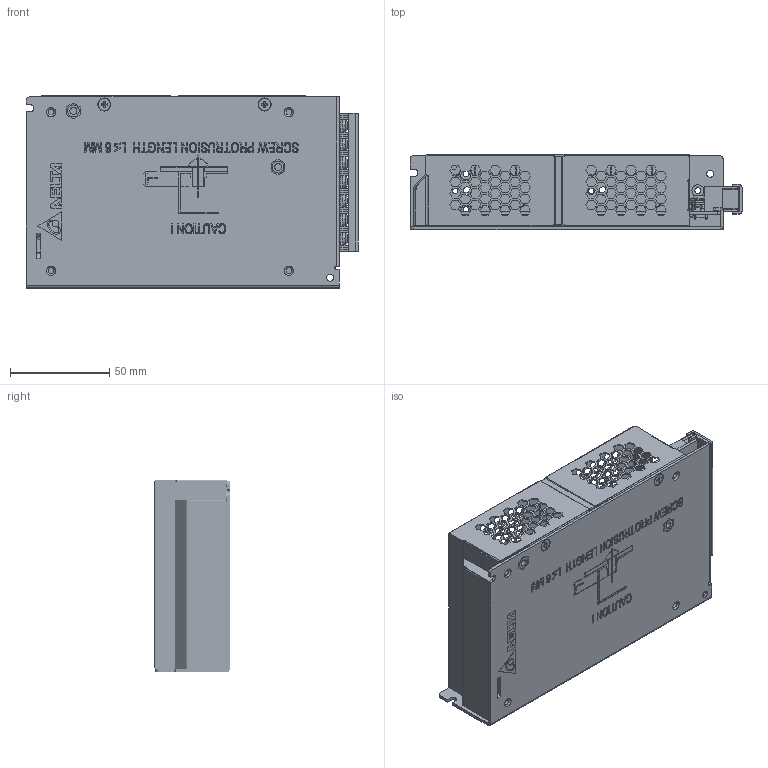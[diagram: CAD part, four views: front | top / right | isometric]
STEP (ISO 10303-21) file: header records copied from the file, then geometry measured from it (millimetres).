
FILE_DESCRIPTION((''),'2;1');
FILE_NAME('PMH-24V100WCCV_ASM_ASM','2018-05-28T',('warud'),(''),'PRO/ENGINEER BY PARAMETRIC TECHNOLOGY CORPORATION, 2010180','PRO/ENGINEER BY PARAMETRIC TECHNOLOGY CORPORATION, 2010180','');
FILE_SCHEMA(('CONFIG_CONTROL_DESIGN','SHAPE_APPEARANCE_LAYERS_GROUPS'));
Products named in the file (19): PWB_MAIN_1; EE_VR550_2_1; EE_LED350_1_1; 3123303900_LED_HOLDER_3_1; 307049907W_A_BT25U101_1; 307049907W_A_BT24-KO31_2; 307049907W_A_BT24-KO31-05-M101_; 307049907W_A_T24P101_1; 307049907W_A_ASSEM1_ASM_1_ASM; 307049907W_A_PIN_1; 307049907W_ASM_1_ASM; ASSY_PWB_PMH-24V100WCCV_ASM_ASM; 3105318100_8_1; 330DTXXXXX_CHASSIS_35_1; 330304670103_A_STUD_4_1; 330323340101_ASM_13_ASM_1_ASM_ASM; 330300560101_21_1; 3262038604_4_1; PMH-24V100WCCV_ASM_ASM
Assembly tree (35 placements, depth 5):
  PMH-24V100WCCV_ASM_ASM
    ASSY_PWB_PMH-24V100WCCV_ASM_ASM
      PWB_MAIN_1
      EE_VR550_2_1
      EE_LED350_1_1
      3123303900_LED_HOLDER_3_1
      307049907W_ASM_1_ASM
        307049907W_A_ASSEM1_ASM_1_ASM
          307049907W_A_BT25U101_1  x7
          307049907W_A_BT24-KO31_2
          307049907W_A_BT24-KO31-05-M101_
          307049907W_A_T24P101_1  x7
        307049907W_A_PIN_1  x2
    3105318100_8_1  x4
    330323340101_ASM_13_ASM_1_ASM_ASM
      330DTXXXXX_CHASSIS_35_1
      330304670103_A_STUD_4_1  x2
    330300560101_21_1
    3262038604_4_1
Bounding box: 167.55 x 38.07 x 97 mm (x, y, z)
Volume: 78315.9 mm3; surface area: 133522.4 mm2
Topology: 31 solids, 31 shells, 6989 faces, 19519 edges, 12477 vertices
Faces by surface type: plane 5160, cylinder 861, bspline 401, extrusion 369, cone 96, torus 86, sphere 16
Entity records: 188663 total; most frequent: CARTESIAN_POINT 43082, ORIENTED_EDGE 29222, DIRECTION 24289, EDGE_CURVE 14611, VECTOR 12581, LINE 12212, VERTEX_POINT 9318, AXIS2_PLACEMENT_3D 5854
